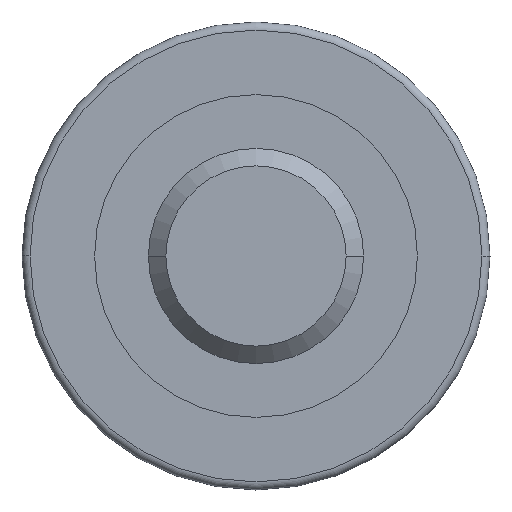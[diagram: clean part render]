
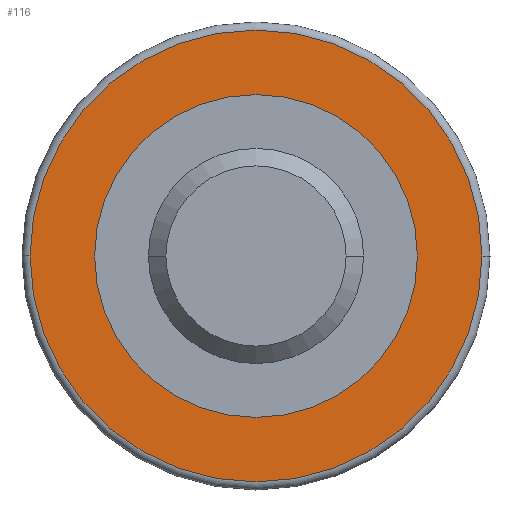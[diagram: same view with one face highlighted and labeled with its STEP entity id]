
A CAD part, left-side view. The second image highlights one B-rep face of the part: STEP entity #116.
In plain terms, the highlighted planar face has unit normal (-1, 0, 0).
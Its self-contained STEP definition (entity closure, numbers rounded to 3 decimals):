
#11 = VERTEX_POINT ( 'NONE', #215 ) ;
#26 = EDGE_CURVE ( 'NONE', #517, #11, #392, .T. ) ;
#57 = ORIENTED_EDGE ( 'NONE', *, *, #123, .F. ) ;
#62 = ORIENTED_EDGE ( 'NONE', *, *, #149, .T. ) ;
#73 = VERTEX_POINT ( 'NONE', #361 ) ;
#91 = EDGE_LOOP ( 'NONE', ( #57, #737 ) ) ;
#101 = ORIENTED_EDGE ( 'NONE', *, *, #26, .T. ) ;
#114 = VERTEX_POINT ( 'NONE', #265 ) ;
#116 = ADVANCED_FACE ( 'NONE', ( #266, #267 ), #268, .F. ) ;
#123 = EDGE_CURVE ( 'NONE', #114, #73, #356, .T. ) ;
#149 = EDGE_CURVE ( 'NONE', #11, #517, #531, .T. ) ;
#215 = CARTESIAN_POINT ( 'NONE',  ( 33., 84., 0. ) ) ;
#265 = CARTESIAN_POINT ( 'NONE',  ( 33., -60., 0. ) ) ;
#266 = FACE_BOUND ( 'NONE', #91, .T. ) ;
#267 = FACE_OUTER_BOUND ( 'NONE', #330, .T. ) ;
#268 = PLANE ( 'NONE',  #269 ) ;
#269 = AXIS2_PLACEMENT_3D ( 'NONE', #270, #271, #272 ) ;
#270 = CARTESIAN_POINT ( 'NONE',  ( 33., 60., 0. ) ) ;
#271 = DIRECTION ( 'NONE',  ( 1., 0., 0. ) ) ;
#272 = DIRECTION ( 'NONE',  ( 0., 1., 0. ) ) ;
#330 = EDGE_LOOP ( 'NONE', ( #101, #62 ) ) ;
#356 = CIRCLE ( 'NONE', #357, 60. ) ;
#357 = AXIS2_PLACEMENT_3D ( 'NONE', #358, #359, #360 ) ;
#358 = CARTESIAN_POINT ( 'NONE',  ( 33., 0., 0. ) ) ;
#359 = DIRECTION ( 'NONE',  ( -1., 0., 0. ) ) ;
#360 = DIRECTION ( 'NONE',  ( 0., -1., 0. ) ) ;
#361 = CARTESIAN_POINT ( 'NONE',  ( 33., 60., 0. ) ) ;
#392 = CIRCLE ( 'NONE', #393, 84. ) ;
#393 = AXIS2_PLACEMENT_3D ( 'NONE', #394, #395, #396 ) ;
#394 = CARTESIAN_POINT ( 'NONE',  ( 33., 0., 0. ) ) ;
#395 = DIRECTION ( 'NONE',  ( -1., 0., 0. ) ) ;
#396 = DIRECTION ( 'NONE',  ( 0., -1., 0. ) ) ;
#397 = CARTESIAN_POINT ( 'NONE',  ( 33., -84., 0. ) ) ;
#417 = CIRCLE ( 'NONE', #418, 60. ) ;
#418 = AXIS2_PLACEMENT_3D ( 'NONE', #419, #420, #421 ) ;
#419 = CARTESIAN_POINT ( 'NONE',  ( 33., 0., 0. ) ) ;
#420 = DIRECTION ( 'NONE',  ( -1., 0., 0. ) ) ;
#421 = DIRECTION ( 'NONE',  ( 0., -1., 0. ) ) ;
#517 = VERTEX_POINT ( 'NONE', #397 ) ;
#531 = CIRCLE ( 'NONE', #532, 84. ) ;
#532 = AXIS2_PLACEMENT_3D ( 'NONE', #533, #534, #535 ) ;
#533 = CARTESIAN_POINT ( 'NONE',  ( 33., 0., 0. ) ) ;
#534 = DIRECTION ( 'NONE',  ( -1., 0., 0. ) ) ;
#535 = DIRECTION ( 'NONE',  ( 0., -1., 0. ) ) ;
#539 = EDGE_CURVE ( 'NONE', #73, #114, #417, .T. ) ;
#737 = ORIENTED_EDGE ( 'NONE', *, *, #539, .F. ) ;
